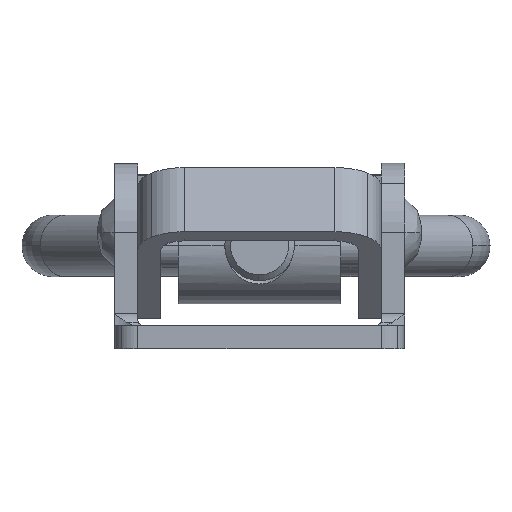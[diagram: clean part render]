
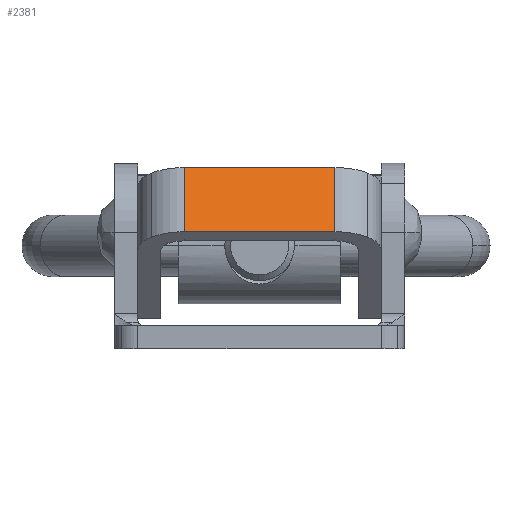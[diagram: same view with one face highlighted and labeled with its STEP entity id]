
A CAD part, left-side view. The second image highlights one B-rep face of the part: STEP entity #2381.
In plain terms, the highlighted planar face has unit normal (-0.919, 0, 0.395) as drawn and (0.893, 0, 0.45) by its records, which use the part's own axes.
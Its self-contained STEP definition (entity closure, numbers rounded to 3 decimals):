
#2202=CARTESIAN_POINT('',(32.311,-8.0,0.937));
#2203=VERTEX_POINT('',#2202);
#2211=CARTESIAN_POINT('',(29.604,-8.0,6.313));
#2212=VERTEX_POINT('',#2211);
#2213=CARTESIAN_POINT('',(32.311,-8.0,0.937));
#2214=DIRECTION('',(-0.45,0.0,0.893));
#2215=VECTOR('',#2214,6.02);
#2216=LINE('',#2213,#2215);
#2217=EDGE_CURVE('',#2203,#2212,#2216,.T.);
#2268=CARTESIAN_POINT('',(29.604,5.0,6.313));
#2269=VERTEX_POINT('',#2268);
#2270=CARTESIAN_POINT('',(29.604,-8.0,6.313));
#2271=DIRECTION('',(0.0,1.0,0.0));
#2272=VECTOR('',#2271,13.0);
#2273=LINE('',#2270,#2272);
#2274=EDGE_CURVE('',#2212,#2269,#2273,.T.);
#2358=CARTESIAN_POINT('',(32.311,-10.0,0.937));
#2359=DIRECTION('',(0.893,0.0,0.45));
#2360=DIRECTION('',(0.45,0.0,-0.893));
#2361=AXIS2_PLACEMENT_3D('',#2358,#2359,#2360);
#2362=PLANE('',#2361);
#2363=ORIENTED_EDGE('',*,*,#2217,.F.);
#2364=CARTESIAN_POINT('',(32.311,5.0,0.937));
#2365=VERTEX_POINT('',#2364);
#2366=CARTESIAN_POINT('',(32.311,-8.0,0.937));
#2367=DIRECTION('',(0.0,1.0,0.0));
#2368=VECTOR('',#2367,13.0);
#2369=LINE('',#2366,#2368);
#2370=EDGE_CURVE('',#2203,#2365,#2369,.T.);
#2371=ORIENTED_EDGE('',*,*,#2370,.T.);
#2372=CARTESIAN_POINT('',(29.604,5.0,6.313));
#2373=DIRECTION('',(0.45,0.0,-0.893));
#2374=VECTOR('',#2373,6.02);
#2375=LINE('',#2372,#2374);
#2376=EDGE_CURVE('',#2269,#2365,#2375,.T.);
#2377=ORIENTED_EDGE('',*,*,#2376,.F.);
#2378=ORIENTED_EDGE('',*,*,#2274,.F.);
#2379=EDGE_LOOP('',(#2363,#2371,#2377,#2378));
#2380=FACE_OUTER_BOUND('',#2379,.T.);
#2381=ADVANCED_FACE('',(#2380),#2362,.T.);
